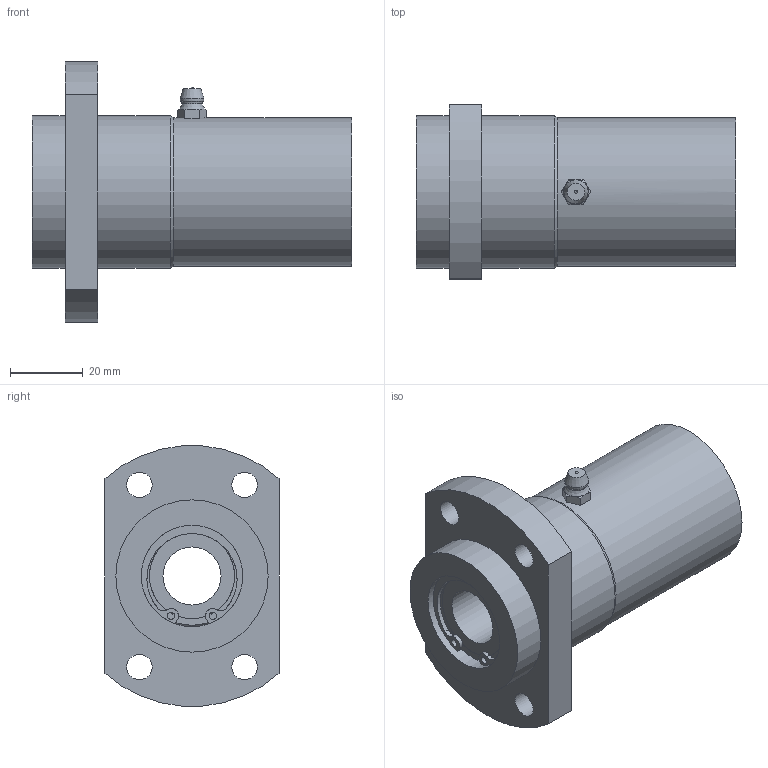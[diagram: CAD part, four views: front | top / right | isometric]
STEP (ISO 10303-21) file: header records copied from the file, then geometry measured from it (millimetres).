
FILE_DESCRIPTION((''),'2;1');
FILE_NAME('D:\製品 (図面)\カタログ用3D\リニアベアリング関連(改)\STEP形式\LFWB\LFWB16.stp','2010-01-22T16:26:48',('Tsuchiya'),(''),'Autodesk Inventor 10','Autodesk Inventor 10','');
FILE_SCHEMA(('AUTOMOTIVE_DESIGN { 1 0 10303 214 1 1 1 1 }'));
Length unit declared in the file: millimetre
Products named in the file (1): LFWB16
Bounding box: 88 x 48 x 71.76 mm (x, y, z)
Volume: 113109.5 mm3; surface area: 26761.6 mm2
Topology: 1 solids, 7 shells, 112 faces, 262 edges, 163 vertices
Faces by surface type: bspline 36, plane 34, cylinder 30, cone 8, sphere 2, torus 2
Full cylindrical faces by diameter (mm): 2 x2, 7 x4, 16 x2, 23.5 x2, 26.6 x2, 28 x8, 41 x1, 42 x2
Entity records: 3209 total; most frequent: CARTESIAN_POINT 903, DIRECTION 486, ORIENTED_EDGE 400, AXIS2_PLACEMENT_3D 221, EDGE_CURVE 200, EDGE_LOOP 188, VERTEX_POINT 144, CIRCLE 140
